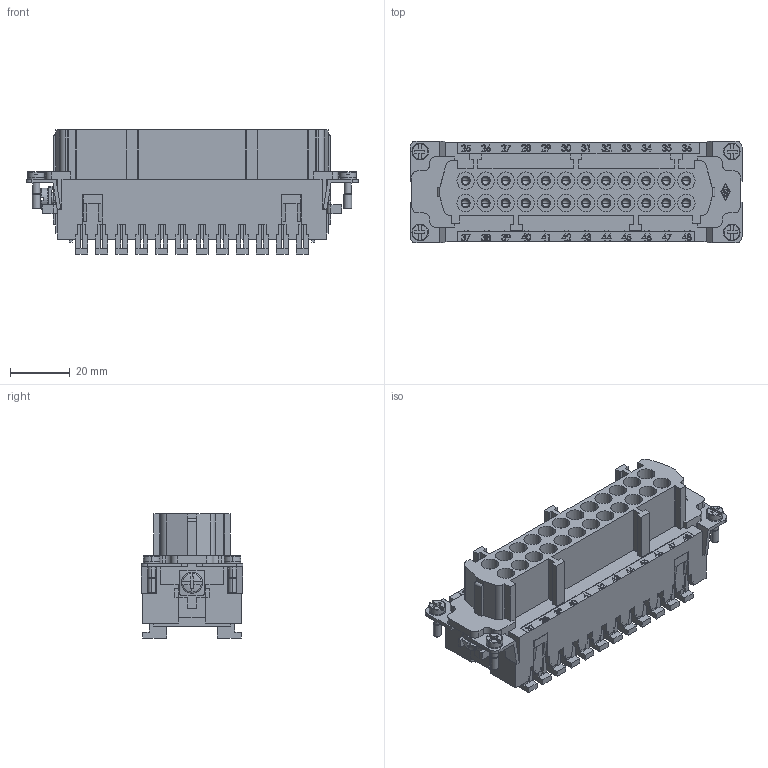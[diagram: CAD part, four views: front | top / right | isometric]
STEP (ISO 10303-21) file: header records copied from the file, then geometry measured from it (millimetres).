
FILE_DESCRIPTION (( 'STEP AP214' ), '1' );
FILE_NAME ('CSHF-24N.STEP', '2016-01-12T18:46:10', ( 'Mencom User' ), ( 'Hewlett-Packard Company' ), 'SwSTEP 2.0', 'SolidWorks 2015', '' );
FILE_SCHEMA (( 'AUTOMOTIVE_DESIGN' ));
Length unit declared in the file: millimetre
Products named in the file (1): CSHF-24N
Bounding box: 110.8 x 34 x 41.5 mm (x, y, z)
Volume: 79004.4 mm3; surface area: 36507.3 mm2
Topology: 1 solids, 1 shells, 2634 faces, 7186 edges, 4688 vertices
Faces by surface type: plane 1768, cylinder 398, bspline 392, sphere 50, cone 16, torus 10
Entity records: 119892 total; most frequent: CARTESIAN_POINT 36453, ORIENTED_EDGE 14180, DIRECTION 11675, EDGE_CURVE 7090, LINE 5327, VECTOR 5327, VERTEX_POINT 4640, AXIS2_PLACEMENT_3D 3174
